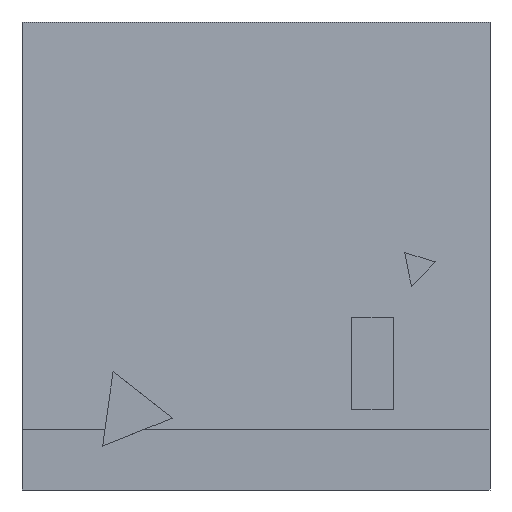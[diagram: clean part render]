
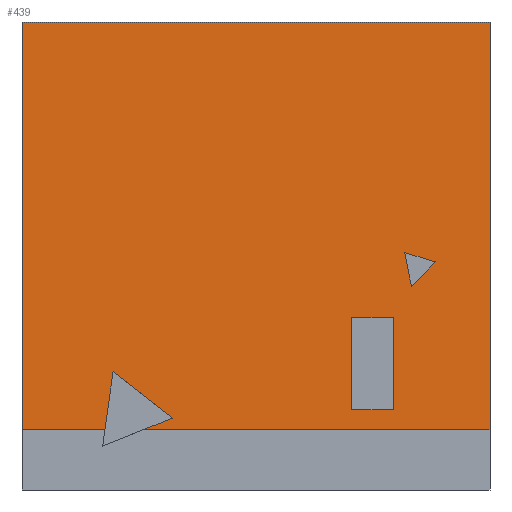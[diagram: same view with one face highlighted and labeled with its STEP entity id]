
A CAD part, left-side view. The second image highlights one B-rep face of the part: STEP entity #439.
In plain terms, the highlighted planar face has unit normal (-0.999, -0.042, 0).
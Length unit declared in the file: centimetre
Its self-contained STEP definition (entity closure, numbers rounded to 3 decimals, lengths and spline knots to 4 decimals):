
#15 = CARTESIAN_POINT ( 'NONE',  ( 143.7236, 1000., 129.1427 ) ) ;
#16 = VERTEX_POINT ( 'NONE', #1759 ) ;
#41 = LINE ( 'NONE', #1240, #977 ) ;
#74 = LINE ( 'NONE', #514, #1039 ) ;
#82 = LINE ( 'NONE', #687, #1548 ) ;
#102 = VECTOR ( 'NONE', #1836, 100. ) ;
#103 = VECTOR ( 'NONE', #1637, 100. ) ;
#111 = LINE ( 'NONE', #1606, #1921 ) ;
#135 = VECTOR ( 'NONE', #589, 100. ) ;
#141 = DIRECTION ( 'NONE',  ( -0.008, 0.199, 0.98 ) ) ;
#166 = CARTESIAN_POINT ( 'NONE',  ( 177.5843, 192.2643, 368.5784 ) ) ;
#187 = DIRECTION ( 'NONE',  ( -0.042, 0.999, 0. ) ) ;
#191 = VERTEX_POINT ( 'NONE', #1690 ) ;
#209 = CARTESIAN_POINT ( 'NONE',  ( 185.6442, 0., 129.1427 ) ) ;
#242 = FACE_OUTER_BOUND ( 'NONE', #1676, .T. ) ;
#243 = CARTESIAN_POINT ( 'NONE',  ( 151.8846, 805.3212, 252.6021 ) ) ;
#290 = VERTEX_POINT ( 'NONE', #1561 ) ;
#333 = ORIENTED_EDGE ( 'NONE', *, *, #1599, .F. ) ;
#389 = ORIENTED_EDGE ( 'NONE', *, *, #403, .F. ) ;
#403 = EDGE_CURVE ( 'NONE', #290, #867, #801, .T. ) ;
#404 = CARTESIAN_POINT ( 'NONE',  ( 179.7273, 141.1449, 304.251 ) ) ;
#410 = VERTEX_POINT ( 'NONE', #416 ) ;
#416 = CARTESIAN_POINT ( 'NONE',  ( 154.6395, 739.6042, 129.1427 ) ) ;
#439 = ADVANCED_FACE ( 'NONE', ( #1756, #242, #1922 ), #835, .F. ) ;
#446 = LINE ( 'NONE', #1192, #633 ) ;
#471 = CARTESIAN_POINT ( 'NONE',  ( 180.7694, 116.2858, 487.2603 ) ) ;
#475 = VECTOR ( 'NONE', #187, 100. ) ;
#486 = DIRECTION ( 'NONE',  ( 0.039, -0.927, 0.373 ) ) ;
#494 = DIRECTION ( 'NONE',  ( 0.042, -0.999, 0. ) ) ;
#508 = CARTESIAN_POINT ( 'NONE',  ( 151.151, 822.8221, 129.1427 ) ) ;
#510 = ORIENTED_EDGE ( 'NONE', *, *, #1489, .F. ) ;
#514 = CARTESIAN_POINT ( 'NONE',  ( 150.9878, 826.7153, 702.3905 ) ) ;
#542 = DIRECTION ( 'NONE',  ( 0.04, -0.956, -0.29 ) ) ;
#589 = DIRECTION ( 'NONE',  ( -0.042, 0.999, 0. ) ) ;
#603 = ORIENTED_EDGE ( 'NONE', *, *, #1563, .T. ) ;
#610 = CARTESIAN_POINT ( 'NONE',  ( 143.7236, 1000., 129.1427 ) ) ;
#620 = LINE ( 'NONE', #610, #695 ) ;
#633 = VECTOR ( 'NONE', #1498, 100. ) ;
#637 = CARTESIAN_POINT ( 'NONE',  ( 185.6442, 0., 1000. ) ) ;
#668 = CARTESIAN_POINT ( 'NONE',  ( 158.056, 658.1055, 137.3023 ) ) ;
#687 = CARTESIAN_POINT ( 'NONE',  ( 177.0004, 206.1938, 171.3259 ) ) ;
#695 = VECTOR ( 'NONE', #1816, 100. ) ;
#766 = DIRECTION ( 'NONE',  ( -0.03, 0.707, -0.707 ) ) ;
#774 = CARTESIAN_POINT ( 'NONE',  ( 177.0004, 206.1938, 171.3259 ) ) ;
#780 = CARTESIAN_POINT ( 'NONE',  ( 173.241, 295.8726, 368.5784 ) ) ;
#801 = LINE ( 'NONE', #1266, #1507 ) ;
#802 = DIRECTION ( 'NONE',  ( 0., 0., 1. ) ) ;
#811 = ORIENTED_EDGE ( 'NONE', *, *, #1866, .T. ) ;
#835 = PLANE ( 'NONE',  #1032 ) ;
#855 = CARTESIAN_POINT ( 'NONE',  ( 143.7236, 1000., 129.1427 ) ) ;
#867 = VERTEX_POINT ( 'NONE', #774 ) ;
#869 = VECTOR ( 'NONE', #766, 100. ) ;
#891 = CARTESIAN_POINT ( 'NONE',  ( 143.7236, 1000., 129.1427 ) ) ;
#893 = EDGE_CURVE ( 'NONE', #1176, #903, #1674, .T. ) ;
#899 = EDGE_LOOP ( 'NONE', ( #333, #1321, #510, #389 ) ) ;
#903 = VERTEX_POINT ( 'NONE', #637 ) ;
#916 = VECTOR ( 'NONE', #141, 100. ) ;
#924 = EDGE_CURVE ( 'NONE', #410, #16, #41, .T. ) ;
#959 = VERTEX_POINT ( 'NONE', #1819 ) ;
#977 = VECTOR ( 'NONE', #486, 100. ) ;
#1000 = CARTESIAN_POINT ( 'NONE',  ( 143.7236, 1000., 1000. ) ) ;
#1016 = VERTEX_POINT ( 'NONE', #508 ) ;
#1032 = AXIS2_PLACEMENT_3D ( 'NONE', #855, #1767, #1437 ) ;
#1033 = ORIENTED_EDGE ( 'NONE', *, *, #1262, .F. ) ;
#1035 = CARTESIAN_POINT ( 'NONE',  ( 185.6442, 0., 129.1427 ) ) ;
#1039 = VECTOR ( 'NONE', #542, 100. ) ;
#1088 = VERTEX_POINT ( 'NONE', #243 ) ;
#1095 = CARTESIAN_POINT ( 'NONE',  ( 178.6061, 167.8896, 435.6565 ) ) ;
#1102 = LINE ( 'NONE', #1705, #869 ) ;
#1104 = VECTOR ( 'NONE', #1426, 100. ) ;
#1108 = VERTEX_POINT ( 'NONE', #1000 ) ;
#1174 = CARTESIAN_POINT ( 'NONE',  ( 143.7236, 1000., 1000. ) ) ;
#1176 = VERTEX_POINT ( 'NONE', #1035 ) ;
#1185 = EDGE_CURVE ( 'NONE', #1088, #1016, #1312, .T. ) ;
#1192 = CARTESIAN_POINT ( 'NONE',  ( 143.7236, 1000., 129.1427 ) ) ;
#1196 = EDGE_CURVE ( 'NONE', #903, #1108, #1648, .T. ) ;
#1240 = CARTESIAN_POINT ( 'NONE',  ( 152.1588, 798.7814, 105.3154 ) ) ;
#1262 = EDGE_CURVE ( 'NONE', #1176, #410, #446, .T. ) ;
#1264 = DIRECTION ( 'NONE',  ( 0., 0., 1. ) ) ;
#1265 = ORIENTED_EDGE ( 'NONE', *, *, #893, .T. ) ;
#1266 = CARTESIAN_POINT ( 'NONE',  ( 177.5843, 192.2643, 171.3259 ) ) ;
#1288 = ORIENTED_EDGE ( 'NONE', *, *, #1694, .F. ) ;
#1308 = EDGE_CURVE ( 'NONE', #191, #1378, #1826, .T. ) ;
#1312 = LINE ( 'NONE', #1617, #103 ) ;
#1321 = ORIENTED_EDGE ( 'NONE', *, *, #1308, .F. ) ;
#1338 = VERTEX_POINT ( 'NONE', #15 ) ;
#1344 = EDGE_CURVE ( 'NONE', #1338, #1108, #620, .T. ) ;
#1362 = VERTEX_POINT ( 'NONE', #1095 ) ;
#1378 = VERTEX_POINT ( 'NONE', #780 ) ;
#1407 = ORIENTED_EDGE ( 'NONE', *, *, #1185, .F. ) ;
#1426 = DIRECTION ( 'NONE',  ( -0.033, 0.787, 0.616 ) ) ;
#1428 = ORIENTED_EDGE ( 'NONE', *, *, #924, .F. ) ;
#1437 = DIRECTION ( 'NONE',  ( -0.042, 0.999, 0. ) ) ;
#1446 = LINE ( 'NONE', #404, #916 ) ;
#1471 = EDGE_CURVE ( 'NONE', #16, #1088, #1744, .T. ) ;
#1489 = EDGE_CURVE ( 'NONE', #867, #191, #82, .T. ) ;
#1498 = DIRECTION ( 'NONE',  ( -0.042, 0.999, 0. ) ) ;
#1499 = EDGE_CURVE ( 'NONE', #959, #1683, #74, .T. ) ;
#1507 = VECTOR ( 'NONE', #494, 100. ) ;
#1538 = LINE ( 'NONE', #891, #102 ) ;
#1548 = VECTOR ( 'NONE', #1264, 100. ) ;
#1561 = CARTESIAN_POINT ( 'NONE',  ( 173.241, 295.8726, 171.3259 ) ) ;
#1563 = EDGE_CURVE ( 'NONE', #1362, #959, #1446, .T. ) ;
#1593 = ORIENTED_EDGE ( 'NONE', *, *, #1196, .T. ) ;
#1594 = ORIENTED_EDGE ( 'NONE', *, *, #1499, .T. ) ;
#1599 = EDGE_CURVE ( 'NONE', #1378, #290, #111, .T. ) ;
#1606 = CARTESIAN_POINT ( 'NONE',  ( 173.241, 295.8726, 171.3259 ) ) ;
#1613 = ORIENTED_EDGE ( 'NONE', *, *, #1471, .F. ) ;
#1617 = CARTESIAN_POINT ( 'NONE',  ( 151.9125, 804.6554, 257.2993 ) ) ;
#1637 = DIRECTION ( 'NONE',  ( -0.006, 0.14, -0.99 ) ) ;
#1648 = LINE ( 'NONE', #1174, #135 ) ;
#1674 = LINE ( 'NONE', #209, #1889 ) ;
#1676 = EDGE_LOOP ( 'NONE', ( #1613, #1428, #1033, #1265, #1593, #1857, #1288, #1407 ) ) ;
#1683 = VERTEX_POINT ( 'NONE', #471 ) ;
#1690 = CARTESIAN_POINT ( 'NONE',  ( 177.0004, 206.1938, 368.5784 ) ) ;
#1694 = EDGE_CURVE ( 'NONE', #1016, #1338, #1538, .T. ) ;
#1705 = CARTESIAN_POINT ( 'NONE',  ( 154.7306, 737.4324, -133.8863 ) ) ;
#1744 = LINE ( 'NONE', #668, #1104 ) ;
#1756 = FACE_BOUND ( 'NONE', #1796, .T. ) ;
#1759 = CARTESIAN_POINT ( 'NONE',  ( 157.1844, 678.8968, 153.5861 ) ) ;
#1767 = DIRECTION ( 'NONE',  ( 0.999, 0.042, 0. ) ) ;
#1796 = EDGE_LOOP ( 'NONE', ( #603, #1594, #811 ) ) ;
#1816 = DIRECTION ( 'NONE',  ( 0., 0., 1. ) ) ;
#1819 = CARTESIAN_POINT ( 'NONE',  ( 177.9949, 182.4716, 507.3025 ) ) ;
#1826 = LINE ( 'NONE', #166, #475 ) ;
#1836 = DIRECTION ( 'NONE',  ( -0.042, 0.999, 0. ) ) ;
#1857 = ORIENTED_EDGE ( 'NONE', *, *, #1344, .F. ) ;
#1866 = EDGE_CURVE ( 'NONE', #1683, #1362, #1102, .T. ) ;
#1889 = VECTOR ( 'NONE', #802, 100. ) ;
#1919 = DIRECTION ( 'NONE',  ( 0., 0., -1. ) ) ;
#1921 = VECTOR ( 'NONE', #1919, 100. ) ;
#1922 = FACE_BOUND ( 'NONE', #899, .T. ) ;
